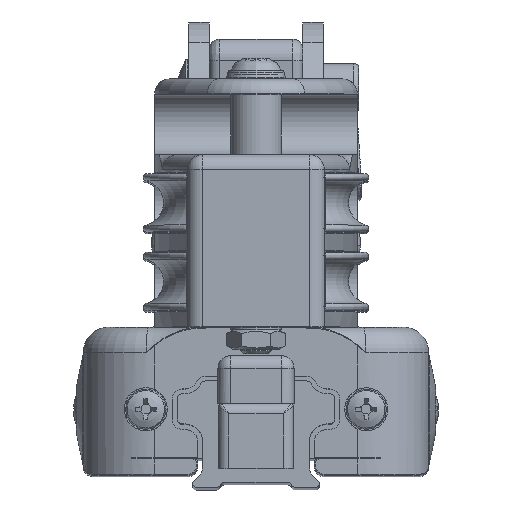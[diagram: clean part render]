
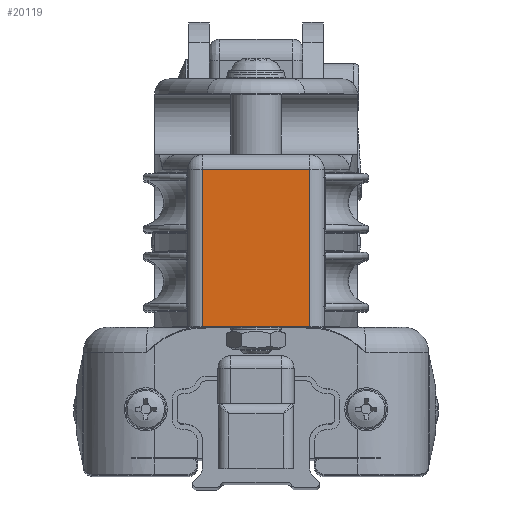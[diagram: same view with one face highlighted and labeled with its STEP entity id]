
A CAD part, top view. The second image highlights one B-rep face of the part: STEP entity #20119.
In plain terms, the highlighted planar face has unit normal (0, 0, 1).
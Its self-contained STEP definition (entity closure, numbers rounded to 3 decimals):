
#2303=FACE_OUTER_BOUND('',#3513,.T.);
#3513=EDGE_LOOP('',(#16477,#16478,#16479,#16480));
#6104=LINE('',#39457,#7281);
#6106=LINE('',#39465,#7283);
#6107=LINE('',#39467,#7284);
#6108=LINE('',#39468,#7285);
#7281=VECTOR('',#27138,10.);
#7283=VECTOR('',#27146,10.);
#7284=VECTOR('',#27147,10.);
#7285=VECTOR('',#27148,10.);
#9159=VERTEX_POINT('',#39455);
#9160=VERTEX_POINT('',#39456);
#9163=VERTEX_POINT('',#39464);
#9164=VERTEX_POINT('',#39466);
#11877=EDGE_CURVE('',#9159,#9160,#6104,.T.);
#11881=EDGE_CURVE('',#9163,#9159,#6106,.T.);
#11882=EDGE_CURVE('',#9160,#9164,#6107,.T.);
#11883=EDGE_CURVE('',#9163,#9164,#6108,.T.);
#16477=ORIENTED_EDGE('',*,*,#11881,.T.);
#16478=ORIENTED_EDGE('',*,*,#11877,.T.);
#16479=ORIENTED_EDGE('',*,*,#11882,.T.);
#16480=ORIENTED_EDGE('',*,*,#11883,.F.);
#19215=PLANE('',#22224);
#20119=ADVANCED_FACE('',(#2303),#19215,.T.);
#22224=AXIS2_PLACEMENT_3D('',#39463,#27144,#27145);
#27138=DIRECTION('',(0.,-1.,0.));
#27144=DIRECTION('center_axis',(0.,0.,
1.));
#27145=DIRECTION('ref_axis',(0.,1.,0.));
#27146=DIRECTION('',(-1.,0.,0.));
#27147=DIRECTION('',(1.,0.,0.));
#27148=DIRECTION('',(0.,-1.,0.));
#39455=CARTESIAN_POINT('',(-10.6,62.7,130.));
#39456=CARTESIAN_POINT('',(-10.6,31.7,130.));
#39457=CARTESIAN_POINT('',(-10.6,32.7,130.));
#39463=CARTESIAN_POINT('Origin',(0.,32.7,
130.));
#39464=CARTESIAN_POINT('',(10.6,62.7,130.));
#39465=CARTESIAN_POINT('',(-10.6,62.7,130.));
#39466=CARTESIAN_POINT('',(10.6,31.7,130.));
#39467=CARTESIAN_POINT('',(5.3,31.7,130.));
#39468=CARTESIAN_POINT('',(10.6,32.7,130.));
